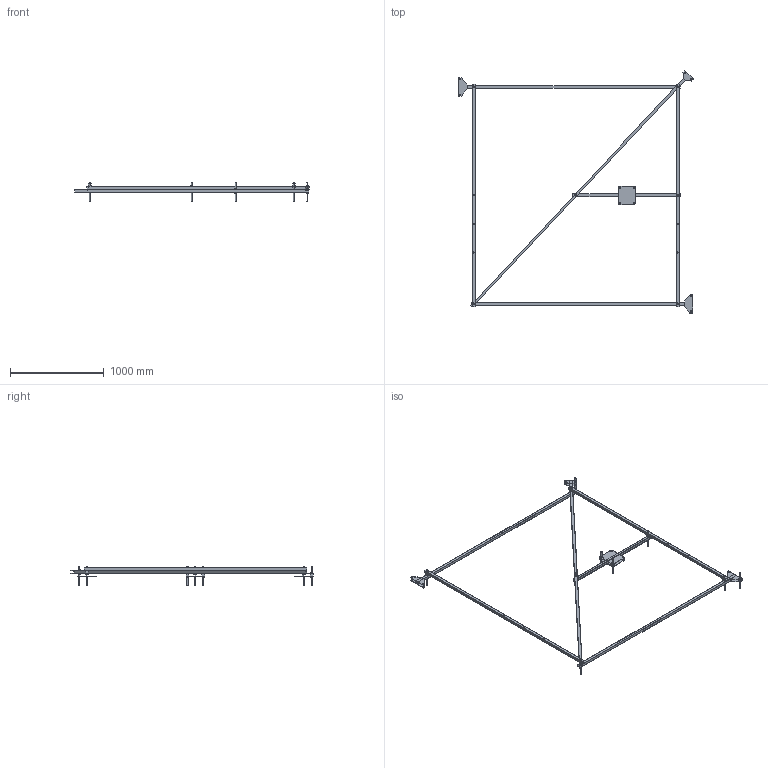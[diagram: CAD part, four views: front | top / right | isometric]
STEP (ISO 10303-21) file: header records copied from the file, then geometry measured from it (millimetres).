
FILE_DESCRIPTION(/* description */ (''),/* implementation_level */ '2;1');
FILE_NAME(/* name */ '2020TOMO-PAV-Assembly_Dima_QUADRA.stp',/* time_stamp */ '2022-05-16T13:53:15+02:00',/* author */ (''),/* organization */ (''),/* preprocessor_version */ 'ST-DEVELOPER v18.102',/* originating_system */ 'SIEMENS PLM Software NX 2000',/* authorisation */ '');
FILE_SCHEMA (('AUTOMOTIVE_DESIGN { 1 0 10303 214 3 1 1 1 }'));
Length unit declared in the file: millimetre
Products named in the file (1): turc3144724Fyyfe
Bounding box: 2507.96 x 2591.07 x 200 mm (x, y, z)
Volume: 3089404.7 mm3; surface area: 3628529.3 mm2
Topology: 51 solids, 51 shells, 540 faces, 1390 edges, 952 vertices
Faces by surface type: plane 378, cylinder 102, cone 60
Full cylindrical faces by diameter (mm): 10.579 x20, 12 x82
Entity records: 16119 total; most frequent: CARTESIAN_POINT 3469, DIRECTION 2318, ORIENTED_EDGE 2184, EDGE_CURVE 1092, EDGE_LOOP 912, AXIS2_PLACEMENT_3D 865, VERTEX_POINT 816, FACE_BOUND 668
